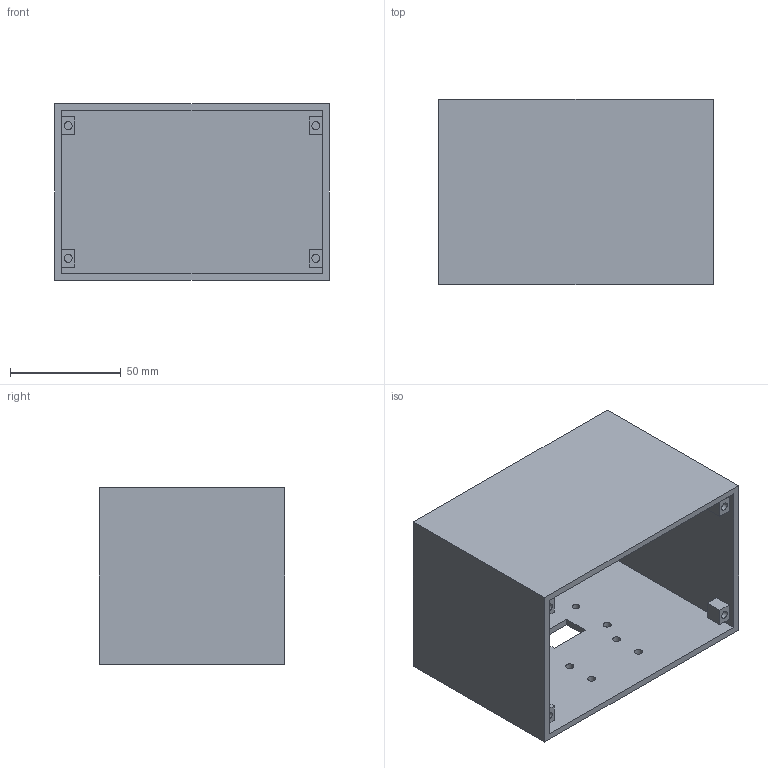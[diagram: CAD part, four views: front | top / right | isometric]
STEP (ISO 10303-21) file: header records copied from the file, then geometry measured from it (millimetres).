
FILE_DESCRIPTION(('Open CASCADE Model'),'2;1');
FILE_NAME('Open CASCADE Shape Model','2026-10-06T17:17:59',('Author'),( 'Open CASCADE'),'Open CASCADE STEP processor 7.8','Open CASCADE 7.8' ,'Unknown');
FILE_SCHEMA(('AUTOMOTIVE_DESIGN { 1 0 10303 214 1 1 1 1 }'));
Length unit declared in the file: millimetre
Products named in the file (1): Open CASCADE STEP translator 7.8 11
Bounding box: 124 x 84 x 80 mm (x, y, z)
Volume: 126234 mm3; surface area: 86085.1 mm2
Topology: 1 solids, 1 shells, 47 faces, 120 edges, 80 vertices
Faces by surface type: plane 35, cylinder 12
Full cylindrical faces by diameter (mm): 3.6 x12
Entity records: 2984 total; most frequent: CARTESIAN_POINT 544, DIRECTION 424, LINE 256, VECTOR 256, ORIENTED_EDGE 240, PCURVE 240, DEFINITIONAL_REPRESENTATION 240, EDGE_CURVE 120
